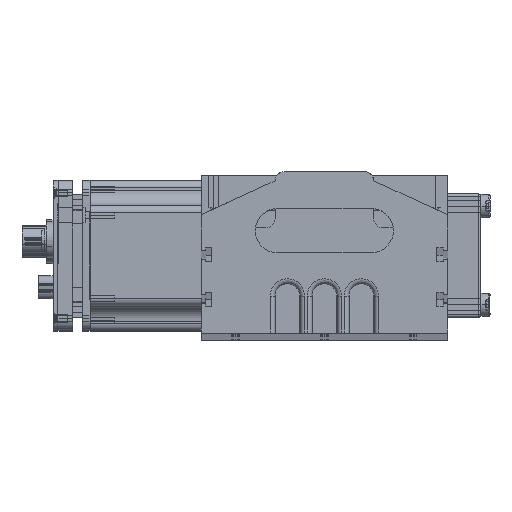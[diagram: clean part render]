
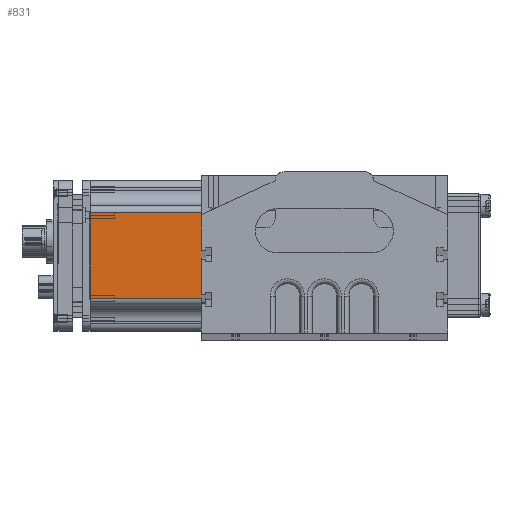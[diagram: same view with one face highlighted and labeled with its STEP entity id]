
A CAD part, top view. The second image highlights one B-rep face of the part: STEP entity #831.
In plain terms, the highlighted planar face has unit normal (0, 0, 1).
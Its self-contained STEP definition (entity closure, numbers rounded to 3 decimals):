
#606 = VERTEX_POINT ( 'NONE', #45586 ) ;
#663 = EDGE_CURVE ( 'NONE', #37473, #606, #45689, .T. ) ;
#773 = ORIENTED_EDGE ( 'NONE', *, *, #787, .F. ) ;
#775 = ORIENTED_EDGE ( 'NONE', *, *, #37476, .F. ) ;
#776 = ORIENTED_EDGE ( 'NONE', *, *, #663, .F. ) ;
#783 = ORIENTED_EDGE ( 'NONE', *, *, #44796, .F. ) ;
#785 = EDGE_CURVE ( 'NONE', #44109, #786, #45660, .T. ) ;
#786 = VERTEX_POINT ( 'NONE', #45903 ) ;
#787 = EDGE_CURVE ( 'NONE', #793, #786, #45103, .T. ) ;
#793 = VERTEX_POINT ( 'NONE', #45958 ) ;
#829 = ORIENTED_EDGE ( 'NONE', *, *, #965, .F. ) ;
#831 = ADVANCED_FACE ( 'NONE', ( #46014 ), #46009, .F. ) ;
#835 = VERTEX_POINT ( 'NONE', #46018 ) ;
#885 = EDGE_LOOP ( 'NONE', ( #776, #775, #783, #891, #773, #945, #829, #930 ) ) ;
#891 = ORIENTED_EDGE ( 'NONE', *, *, #785, .T. ) ;
#930 = ORIENTED_EDGE ( 'NONE', *, *, #938, .F. ) ;
#938 = EDGE_CURVE ( 'NONE', #606, #835, #46196, .T. ) ;
#945 = ORIENTED_EDGE ( 'NONE', *, *, #1024, .F. ) ;
#965 = EDGE_CURVE ( 'NONE', #835, #1048, #46263, .T. ) ;
#1024 = EDGE_CURVE ( 'NONE', #1048, #793, #46371, .T. ) ;
#1048 = VERTEX_POINT ( 'NONE', #46455 ) ;
#12586 = CARTESIAN_POINT ( 'NONE',  ( -24.5, 7., 30.5 ) ) ;
#14362 = CARTESIAN_POINT ( 'NONE',  ( -17.5, 7., 30.5 ) ) ;
#14409 = DIRECTION ( 'NONE',  ( 1., 0., 0. ) ) ;
#14410 = VECTOR ( 'NONE', #14409, 1000. ) ;
#14411 = CARTESIAN_POINT ( 'NONE',  ( -24.5, 7., 30.5 ) ) ;
#14412 = LINE ( 'NONE', #14411, #14410 ) ;
#27295 = CARTESIAN_POINT ( 'NONE',  ( -24.5, 0., 30.5 ) ) ;
#27898 = DIRECTION ( 'NONE',  ( 0., 1., 0. ) ) ;
#27899 = VECTOR ( 'NONE', #27898, 1000. ) ;
#27902 = CARTESIAN_POINT ( 'NONE',  ( -24.5, 7., 30.5 ) ) ;
#27903 = LINE ( 'NONE', #27902, #27899 ) ;
#32274 = VERTEX_POINT ( 'NONE', #12586 ) ;
#37473 = VERTEX_POINT ( 'NONE', #14362 ) ;
#37476 = EDGE_CURVE ( 'NONE', #32274, #37473, #14412, .T. ) ;
#44109 = VERTEX_POINT ( 'NONE', #27295 ) ;
#44796 = EDGE_CURVE ( 'NONE', #44109, #32274, #27903, .T. ) ;
#45103 = LINE ( 'NONE', #45382, #45355 ) ;
#45355 = VECTOR ( 'NONE', #45362, 1000. ) ;
#45362 = DIRECTION ( 'NONE',  ( 0., -1., 0. ) ) ;
#45382 = CARTESIAN_POINT ( 'NONE',  ( 24.5, 7., 30.5 ) ) ;
#45586 = CARTESIAN_POINT ( 'NONE',  ( -17.5, 94., 30.5 ) ) ;
#45629 = DIRECTION ( 'NONE',  ( 1., 0., 0. ) ) ;
#45634 = VECTOR ( 'NONE', #45629, 1000. ) ;
#45659 = CARTESIAN_POINT ( 'NONE',  ( -24.5, 0., 30.5 ) ) ;
#45660 = LINE ( 'NONE', #45659, #45634 ) ;
#45674 = DIRECTION ( 'NONE',  ( 0., 1., 0. ) ) ;
#45675 = VECTOR ( 'NONE', #45674, 1000. ) ;
#45676 = CARTESIAN_POINT ( 'NONE',  ( -17.5, 7., 30.5 ) ) ;
#45689 = LINE ( 'NONE', #45676, #45675 ) ;
#45903 = CARTESIAN_POINT ( 'NONE',  ( 24.5, 0., 30.5 ) ) ;
#45958 = CARTESIAN_POINT ( 'NONE',  ( 24.5, 7., 30.5 ) ) ;
#45984 = CARTESIAN_POINT ( 'NONE',  ( -24.5, 7., 30.5 ) ) ;
#46006 = DIRECTION ( 'NONE',  ( -1., 0., 0. ) ) ;
#46009 = PLANE ( 'NONE',  #46019 ) ;
#46012 = DIRECTION ( 'NONE',  ( 0., 0., -1. ) ) ;
#46014 = FACE_OUTER_BOUND ( 'NONE', #885, .T. ) ;
#46018 = CARTESIAN_POINT ( 'NONE',  ( 17.5, 94., 30.5 ) ) ;
#46019 = AXIS2_PLACEMENT_3D ( 'NONE', #45984, #46012, #46006 ) ;
#46195 = CARTESIAN_POINT ( 'NONE',  ( 26.5, 94., 30.5 ) ) ;
#46196 = LINE ( 'NONE', #46195, #46253 ) ;
#46252 = DIRECTION ( 'NONE',  ( 1., 0., 0. ) ) ;
#46253 = VECTOR ( 'NONE', #46252, 1000. ) ;
#46260 = DIRECTION ( 'NONE',  ( 0., -1., 0. ) ) ;
#46261 = VECTOR ( 'NONE', #46260, 1000. ) ;
#46262 = CARTESIAN_POINT ( 'NONE',  ( 17.5, 95.35, 30.5 ) ) ;
#46263 = LINE ( 'NONE', #46262, #46261 ) ;
#46368 = DIRECTION ( 'NONE',  ( 1., 0., 0. ) ) ;
#46369 = VECTOR ( 'NONE', #46368, 1000. ) ;
#46370 = CARTESIAN_POINT ( 'NONE',  ( -24.5, 7., 30.5 ) ) ;
#46371 = LINE ( 'NONE', #46370, #46369 ) ;
#46455 = CARTESIAN_POINT ( 'NONE',  ( 17.5, 7., 30.5 ) ) ;
